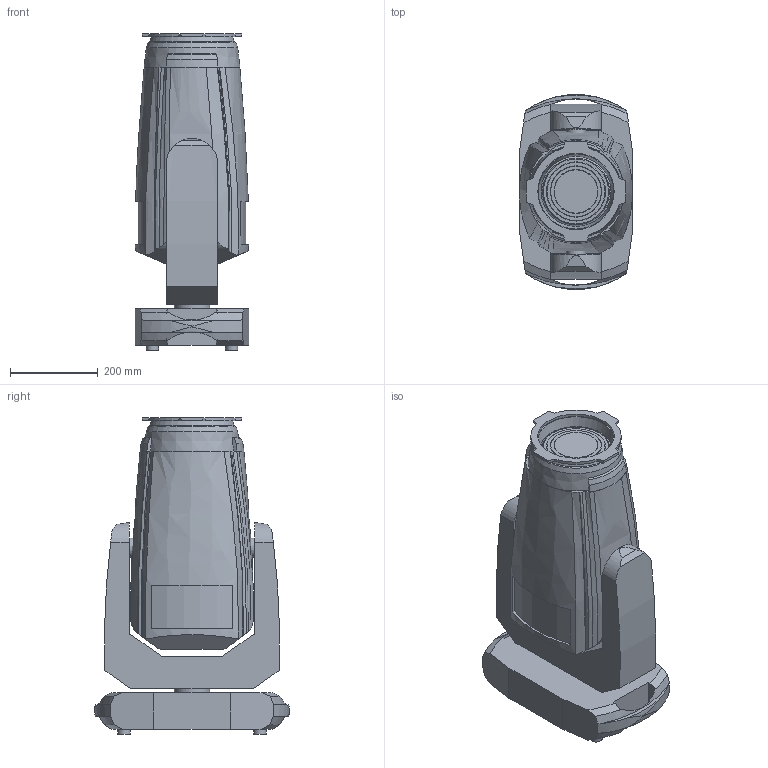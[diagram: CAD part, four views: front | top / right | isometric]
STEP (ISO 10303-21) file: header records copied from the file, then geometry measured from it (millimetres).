
FILE_DESCRIPTION(/* description */ ('Unknown'),/* implementation_level */ '2;1');
FILE_NAME(/* name */ '3D_Esprite W_PC',/* time_stamp */ '2020-02-07T10:17:58+01:00',/* author */ ('Ing.Rostislav HĂˇba'),/* organization */ ('ROBE lighting'),/* preprocessor_version */ 'ST-DEVELOPER v16.7',/* originating_system */ 'Solid Edge',/* authorisation */ 'Unknown');
FILE_SCHEMA (('AUTOMOTIVE_DESIGN {1 0 10303 214 3 1 1}'));
Length unit declared in the file: millimetre
Products named in the file (4): 3D_Esprite; Tarrantula_Base; T1W-Head; 3D_Arm Esprite
Assembly tree (3 placements, depth 2):
  3D_Esprite
    Tarrantula_Base
    T1W-Head
    3D_Arm Esprite
Bounding box: 258.67 x 444.41 x 721.81 mm (x, y, z)
Volume: 41499495.2 mm3; surface area: 1267752.3 mm2
Topology: 3 solids, 3 shells, 200 faces, 533 edges, 353 vertices
Faces by surface type: plane 108, cylinder 32, cone 29, bspline 26, torus 5
Full cylindrical faces by diameter (mm): 9.354 x4, 22.229 x1, 27.957 x4, 44 x1, 60 x1, 80.323 x1, 152.612 x1, 174 x1
Entity records: 7143 total; most frequent: CARTESIAN_POINT 2394, ORIENTED_EDGE 1004, DIRECTION 864, EDGE_CURVE 502, VERTEX_POINT 346, AXIS2_PLACEMENT_3D 326, EDGE_LOOP 246, FACE_BOUND 246
